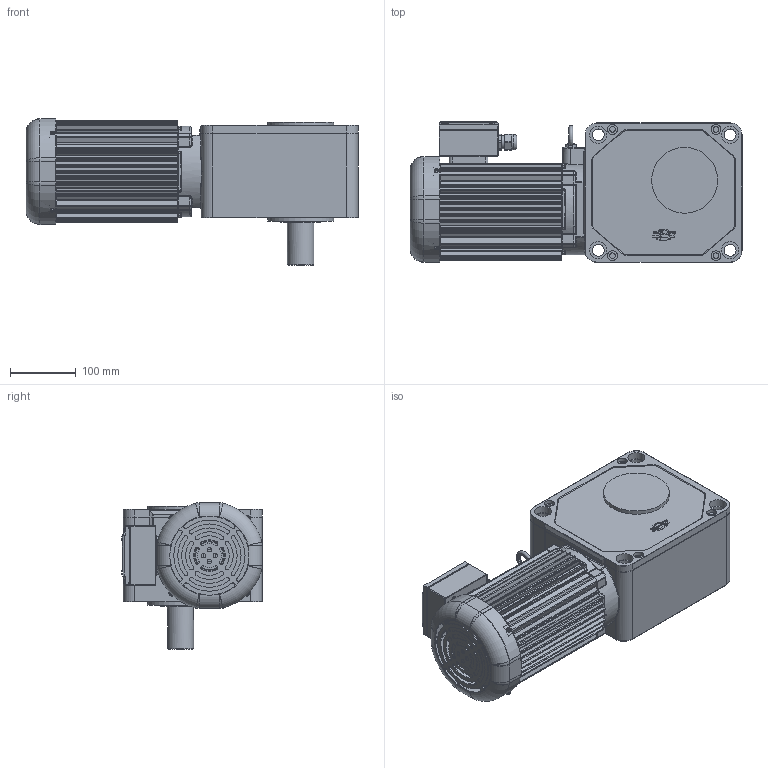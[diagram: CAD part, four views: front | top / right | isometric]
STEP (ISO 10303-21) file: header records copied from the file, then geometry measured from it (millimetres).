
FILE_DESCRIPTION(/* description */ (''),/* implementation_level */ '2;1');
FILE_NAME(/* name */ 'Z:\동력 3D 파일\PCS40R_0.75kW_3D.stp',/* time_stamp */ '2021-11-09T13:22:20+09:00',/* author */ ('jaebok'),/* organization */ (''),/* preprocessor_version */ 'ST-DEVELOPER v18.1',/* originating_system */ 'Autodesk Inventor 2022',/* authorisation */ '');
FILE_SCHEMA (('AUTOMOTIVE_DESIGN { 1 0 10303 214 3 1 1 }'));
Products named in the file (1): 부품66
Bounding box: 503.5 x 213.2 x 222.2 mm (x, y, z)
Volume: 4115831.9 mm3; surface area: 926468.4 mm2
Topology: 1 solids, 26 shells, 2172 faces, 5524 edges, 3427 vertices
Faces by surface type: plane 880, cylinder 790, bspline 223, torus 171, cone 60, sphere 48
Full cylindrical faces by diameter (mm): 3.25 x1, 3.5 x4, 3.6 x4, 4 x22, 5 x13, 6 x8, 6.647 x1, 7 x13, 8 x7, 8.5 x4, 10 x1, 12.5 x1, 15 x5, 18 x5, 20 x2, 20.6 x1, 21 x1, 23.6 x1, 25 x1, 26 x12, 30 x1, 36 x1, 40 x2, 44 x1, 64 x2, 73 x1, 81 x1, 85 x2, 90 x2, 100 x2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
Entity records: 74593 total; most frequent: CARTESIAN_POINT 20257, DIRECTION 11168, ORIENTED_EDGE 10928, EDGE_CURVE 5464, AXIS2_PLACEMENT_3D 4318, VERTEX_POINT 3427, LINE 2532, VECTOR 2532
